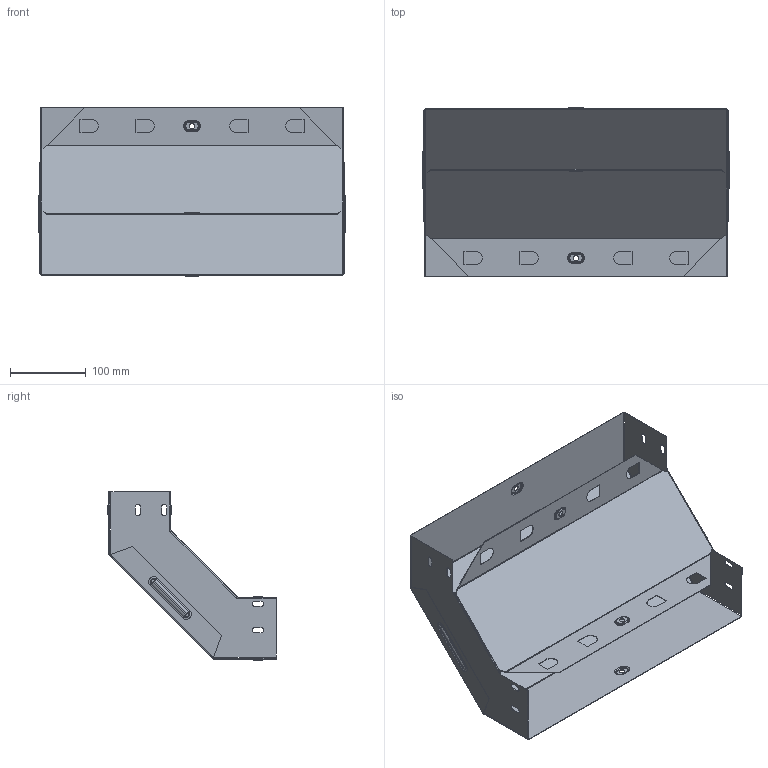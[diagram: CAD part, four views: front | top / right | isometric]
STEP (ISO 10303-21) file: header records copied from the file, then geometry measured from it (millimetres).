
FILE_DESCRIPTION (( 'STEP AP214' ), '1' );
FILE_NAME ('vo9080400_捘.STEP', '2019-06-10T09:07:59', ( '砐錪賧瘔蠈錪 Windows' ), ( '' ), 'SwSTEP 2.0', 'SolidWorks 2018', '' );
FILE_SCHEMA (( 'AUTOMOTIVE_DESIGN' ));
Length unit declared in the file: millimetre
Products named in the file (1): vo9080400_捘
Bounding box: 405.6 x 222.3 x 222.3 mm (x, y, z)
Volume: 224368.5 mm3; surface area: 564707.4 mm2
Topology: 2 solids, 2 shells, 312 faces, 756 edges, 464 vertices
Faces by surface type: plane 124, cylinder 116, torus 64, bspline 8
Entity records: 9355 total; most frequent: CARTESIAN_POINT 1781, DIRECTION 1646, ORIENTED_EDGE 1512, EDGE_CURVE 756, AXIS2_PLACEMENT_3D 617, VERTEX_POINT 464, LINE 412, VECTOR 412
